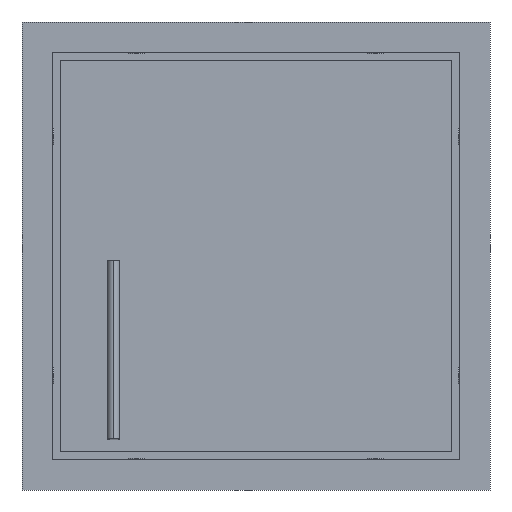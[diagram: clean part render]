
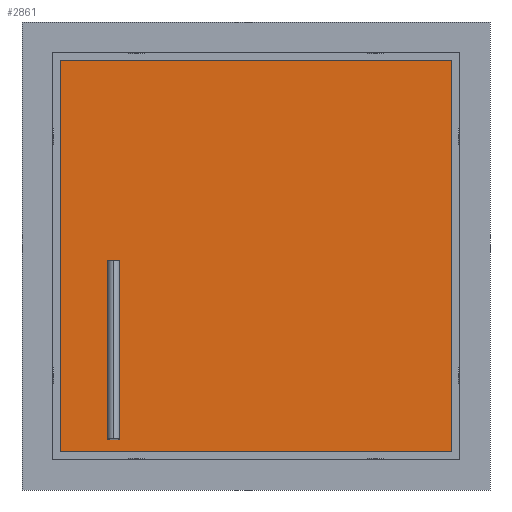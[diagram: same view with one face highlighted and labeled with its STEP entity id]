
A CAD part, front view. The second image highlights one B-rep face of the part: STEP entity #2861.
In plain terms, the highlighted planar face has unit normal (0, -1, 0).
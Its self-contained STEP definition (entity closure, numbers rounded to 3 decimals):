
#2619=DIRECTION('',(1.,0.,0.));
#2620=VECTOR('',#2619,848.);
#2621=CARTESIAN_POINT('',(-424.,78.,415.));
#2622=LINE('',#2621,#2620);
#2627=DIRECTION('',(0.,0.,-1.));
#2628=VECTOR('',#2627,848.);
#2629=CARTESIAN_POINT('',(424.,78.,415.));
#2630=LINE('',#2629,#2628);
#2765=DIRECTION('',(0.,0.,1.));
#2766=VECTOR('',#2765,848.);
#2767=CARTESIAN_POINT('',(-424.,78.,-433.));
#2768=LINE('',#2767,#2766);
#2773=DIRECTION('',(-1.,0.,0.));
#2774=VECTOR('',#2773,848.);
#2775=CARTESIAN_POINT('',(424.,78.,-433.));
#2776=LINE('',#2775,#2774);
#2823=CARTESIAN_POINT('',(424.,78.,415.));
#2824=CARTESIAN_POINT('',(424.,78.,-433.));
#2825=VERTEX_POINT('',#2823);
#2826=VERTEX_POINT('',#2824);
#2827=CARTESIAN_POINT('',(-424.,78.,-433.));
#2828=VERTEX_POINT('',#2827);
#2829=CARTESIAN_POINT('',(-424.,78.,415.));
#2830=VERTEX_POINT('',#2829);
#2847=CARTESIAN_POINT('',(0.,78.,0.));
#2848=DIRECTION('',(0.,1.,0.));
#2849=DIRECTION('',(1.,0.,0.));
#2850=AXIS2_PLACEMENT_3D('',#2847,#2848,#2849);
#2851=PLANE('',#2850);
#2853=ORIENTED_EDGE('',*,*,#2852,.T.);
#2855=ORIENTED_EDGE('',*,*,#2854,.T.);
#2857=ORIENTED_EDGE('',*,*,#2856,.T.);
#2858=ORIENTED_EDGE('',*,*,#2836,.T.);
#2859=EDGE_LOOP('',(#2853,#2855,#2857,#2858));
#2860=FACE_OUTER_BOUND('',#2859,.F.);
#2861=ADVANCED_FACE('',(#2860),#2851,.F.);
#2836=EDGE_CURVE('',#2830,#2825,#2622,.T.);
#2852=EDGE_CURVE('',#2825,#2826,#2630,.T.);
#2854=EDGE_CURVE('',#2826,#2828,#2776,.T.);
#2856=EDGE_CURVE('',#2828,#2830,#2768,.T.);
